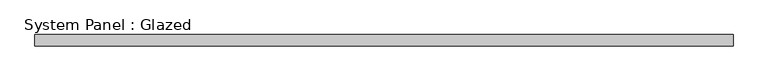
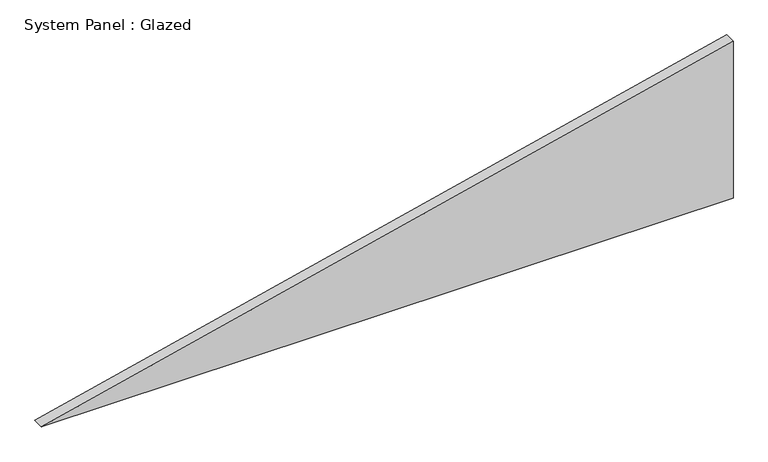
"""IFC4 building model written with IfcOpenShell, lengths in millimetres: plate geometry, System Panel : Glazed."""

from ifc_helpers import new_model, si_unit, frame, origin, place, context, project, spatial, polyline, outline, extrude, source, transform, mapped, element, save


def system_panel_glazed_997bd1a5(model_context):
    return source(origin(), model_context, "Body", "SweptSolid", [
        extrude(outline(polyline([(0.0, -783.5890234), (0.0, 783.5890234), (375.5112542, 783.5890234), (0.0, -783.5890234)])), frame((0.0, 19.05, 0.0), z_axis=(0.0, 1.0, 0.0), x_axis=(0.0, 0.0, 1.0)), (0.0, 0.0, 1.0), 25.4),
    ])


if __name__ == "__main__":
    model = new_model("IFC4")
    model_context = context("Model", 3, world=origin())
    ifc_project = project(units=[si_unit("LENGTHUNIT", "METRE", prefix="MILLI")], contexts=[model_context])
    site = spatial("IfcSite", under=ifc_project)
    building = spatial("IfcBuilding", under=site)
    placement = place(None, origin())
    system_panel_glazed_shape = system_panel_glazed_997bd1a5(model_context)
    element("IfcPlate", 1, ObjectType="System Panel : Glazed", at=placement, inside=building, context=model_context, shape_type="MappedRepresentation", body=[
        mapped(system_panel_glazed_shape, transform((0.0, 0.0, 0.0), x_axis=(1.0, 0.0, 0.0), y_axis=(0.0, 1.0, 0.0), z_axis=(0.0, 0.0, 1.0))),
    ])
    save(model, "model.ifc")
